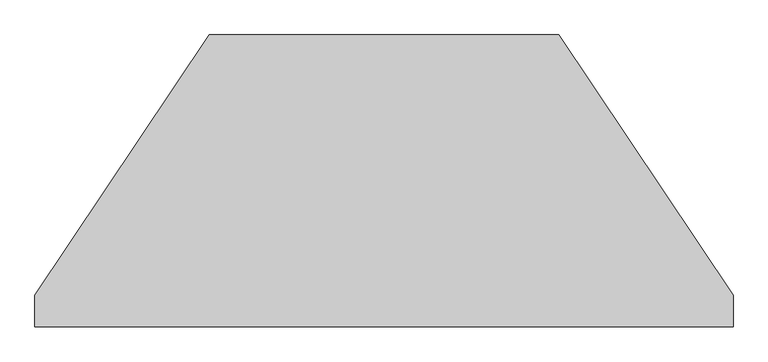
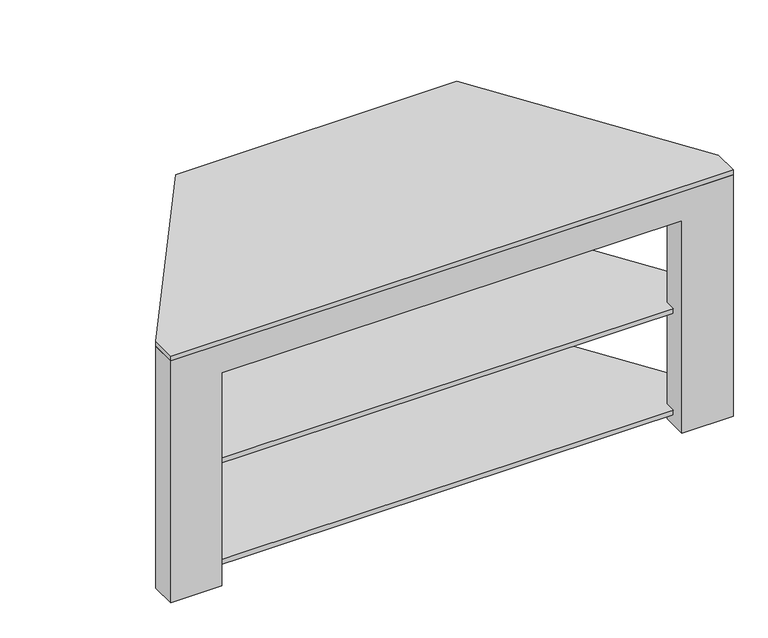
"""IFC4 building model written with IfcOpenShell, lengths in millimetres: furniture geometry, M_TV Stand : M_TV Stand."""

import ifcopenshell
import ifcopenshell.guid

model = None  # the IFC model being written
_history = None  # IfcOwnerHistory: only IFC2X3 demands one
_inside = {}  # id of a spatial element -> (the spatial element, [elements in it])
_under = {}  # id of a project, library or spatial element -> (it, [spatial elements below it])
_declared = {}  # id of a project -> (the project, [libraries it declares])
_typed = {}  # id of a type object -> (the type object, [elements of that type])
_made_of = {}  # id of a material, layer set ... -> (it, [elements and type objects made of it])


def new_model(schema):
    """Start an empty IFC model of exactly this schema.

    Asked for "IFC4X3", IfcOpenShell would pick the latest addendum, in which some entities
    have other attributes; the version numbers below select the first issue.
    IFC2X3 requires an IfcOwnerHistory on every rooted entity: one is made here for all.
    """
    global model, _history
    if schema == "IFC4X3":
        model = ifcopenshell.file(schema_version=(4, 3, 0, 0))
    else:
        model = ifcopenshell.file(schema=schema)
    _inside.clear()
    _under.clear()
    _declared.clear()
    _typed.clear()
    _made_of.clear()
    _history = None
    if model.schema == "IFC2X3":
        org = make("IfcOrganization", Name="unknown")
        user = make(
            "IfcPersonAndOrganization",
            ThePerson=make("IfcPerson", FamilyName="unknown"),
            TheOrganization=org,
        )
        app = make(
            "IfcApplication",
            ApplicationDeveloper=org,
            Version="unknown",
            ApplicationFullName="unknown",
            ApplicationIdentifier="unknown",
        )
        _history = make(
            "IfcOwnerHistory",
            OwningUser=user,
            OwningApplication=app,
            ChangeAction="ADDED",
            CreationDate=0,
        )
    return model


def make(cls, **values):
    """One entity of the class cls with the attributes given. An attribute that is None is left unset."""
    return model.create_entity(
        cls, **{name: value for name, value in values.items() if value is not None}
    )


def rooted(cls, **values):
    """An entity with a GlobalId (a new one), such as an element, a storey or a relation."""
    return make(cls, GlobalId=ifcopenshell.guid.new(), OwnerHistory=_history, **values)


def si_unit(unit_type, name, prefix=None):
    """IfcSIUnit, for example si_unit("LENGTHUNIT", "METRE", prefix="MILLI")."""
    return make("IfcSIUnit", UnitType=unit_type, Prefix=prefix, Name=name)


def assignment(units):
    """IfcUnitAssignment: the units of a project."""
    return None if units is None else make("IfcUnitAssignment", Units=units)


def point(xyz):
    """IfcCartesianPoint."""
    return None if xyz is None else make("IfcCartesianPoint", Coordinates=xyz)


def direction(xyz):
    """IfcDirection."""
    return None if xyz is None else make("IfcDirection", DirectionRatios=xyz)


def frame(location, z_axis=None, x_axis=None):
    """IfcAxis2Placement3D, a coordinate frame: its origin and axes. An axis left out is left unset."""
    return make(
        "IfcAxis2Placement3D",
        Location=point(location),
        Axis=direction(z_axis),
        RefDirection=direction(x_axis),
    )


def frame_2d(location, x_axis=None):
    """IfcAxis2Placement2D, a coordinate frame in the plane: its origin and x axis."""
    return make(
        "IfcAxis2Placement2D", Location=point(location), RefDirection=direction(x_axis)
    )


def origin():
    """The frame at (0, 0, 0) with its axes left unset."""
    return frame((0.0, 0.0, 0.0))


def place(relative_to, where):
    """IfcLocalPlacement: puts the frame where relative to a parent placement (None: the world)."""
    return make(
        "IfcLocalPlacement", PlacementRelTo=relative_to, RelativePlacement=where
    )


def context(
    kind, dimensions, precision=None, world=None, true_north=None, identifier=None
):
    """IfcGeometricRepresentationContext, for example the 3D "Model" context."""
    return make(
        "IfcGeometricRepresentationContext",
        ContextIdentifier=identifier,
        ContextType=kind,
        CoordinateSpaceDimension=dimensions,
        Precision=precision,
        WorldCoordinateSystem=world,
        TrueNorth=true_north,
    )


def project(units=None, contexts=None):
    """IfcProject with its units and contexts."""
    return rooted(
        "IfcProject",
        Name="project",
        RepresentationContexts=contexts,
        UnitsInContext=assignment(units),
    )


def spatial(cls, under=None, at=None, **own):
    """A site, building, storey or space (cls), placed at a placement, below another one or the project."""
    s = rooted(cls, ObjectPlacement=at, **own)
    if under is not None:
        _under.setdefault(under.id(), (under, []))[1].append(s)
    return s


def polyline(points):
    """IfcPolyline through the points."""
    return make("IfcPolyline", Points=[point(p) for p in points])


def circle_curve(where, radius):
    """IfcCircle in the frame where."""
    return make("IfcCircle", Position=where, Radius=radius)


def trimmed(basis, trim1, trim2, sense, master):
    """IfcTrimmedCurve: the piece of a basis curve between two trims."""
    return make(
        "IfcTrimmedCurve",
        BasisCurve=basis,
        Trim1=trim1,
        Trim2=trim2,
        SenseAgreement=sense,
        MasterRepresentation=master,
    )


def segment(curve, same_sense, transition):
    """IfcCompositeCurveSegment."""
    return make(
        "IfcCompositeCurveSegment",
        Transition=transition,
        SameSense=same_sense,
        ParentCurve=curve,
    )


def composite_curve(segments, self_intersect=None):
    """IfcCompositeCurve: segments joined end to end."""
    return make("IfcCompositeCurve", Segments=segments, SelfIntersect=self_intersect)


def outline(outer, holes=None, kind="AREA"):
    """IfcArbitraryClosedProfileDef: a profile drawn as a closed curve; with holes, ...WithVoids."""
    if holes is None:
        return make("IfcArbitraryClosedProfileDef", ProfileType=kind, OuterCurve=outer)
    return make(
        "IfcArbitraryProfileDefWithVoids",
        ProfileType=kind,
        OuterCurve=outer,
        InnerCurves=holes,
    )


def extrude(swept, where, along, depth):
    """IfcExtrudedAreaSolid: the profile swept, set in the frame where, extruded along a direction by depth."""
    return make(
        "IfcExtrudedAreaSolid",
        SweptArea=swept,
        Position=where,
        ExtrudedDirection=direction(along),
        Depth=depth,
    )


def faces_of(points, faces, orient=None, outer=None):
    """IfcFace entities. A face is a list of loops; a loop is a list of indices into points, from 0.

    orient and outer hold one flag for each loop. By default every Orientation is true, the
    first loop of a face is its IfcFaceOuterBound and the others are IfcFaceBound.
    """
    made = []
    for i, loops in enumerate(faces):
        bounds = []
        for j, loop in enumerate(loops):
            is_outer = j == 0 if outer is None else outer[i][j]
            bounds.append(
                make(
                    "IfcFaceOuterBound" if is_outer else "IfcFaceBound",
                    Bound=make("IfcPolyLoop", Polygon=[points[k] for k in loop]),
                    Orientation=True if orient is None else orient[i][j],
                )
            )
        made.append(make("IfcFace", Bounds=bounds))
    return made


def faceted_brep(points, faces, orient=None, outer=None, voids=None):
    """IfcFacetedBrep: a solid bounded by flat faces; with voids (closed shells), ...WithVoids."""
    shared = [point(p) for p in points]
    hull = make("IfcClosedShell", CfsFaces=faces_of(shared, faces, orient, outer))
    if voids is None:
        return make("IfcFacetedBrep", Outer=hull)
    return make(
        "IfcFacetedBrepWithVoids",
        Outer=hull,
        Voids=[
            make(cls, CfsFaces=faces_of(shared, fs, o, b)) for cls, fs, o, b in voids
        ],
    )


def shape(context_of_items, identifier, shape_type, items):
    """IfcShapeRepresentation: the items that make up one representation, for example the "Body"."""
    return make(
        "IfcShapeRepresentation",
        ContextOfItems=context_of_items,
        RepresentationIdentifier=identifier,
        RepresentationType=shape_type,
        Items=items,
    )


def source(mapping_origin, context_of_items, identifier, shape_type, items):
    """IfcRepresentationMap: a shape defined once, which mapped items show again and again."""
    return make(
        "IfcRepresentationMap",
        MappingOrigin=mapping_origin,
        MappedRepresentation=shape(context_of_items, identifier, shape_type, items),
    )


def transform(
    local_origin,
    x_axis=None,
    y_axis=None,
    z_axis=None,
    scale=None,
    scale2=None,
    scale3=None,
    uniform=True,
):
    """IfcCartesianTransformationOperator3D, or its non-uniform kind. x_axis, y_axis, z_axis: its Axis1, 2, 3."""
    if uniform:
        return make(
            "IfcCartesianTransformationOperator3D",
            Axis1=direction(x_axis),
            Axis2=direction(y_axis),
            LocalOrigin=point(local_origin),
            Scale=scale,
            Axis3=direction(z_axis),
        )
    return make(
        "IfcCartesianTransformationOperator3DnonUniform",
        Axis1=direction(x_axis),
        Axis2=direction(y_axis),
        LocalOrigin=point(local_origin),
        Scale=scale,
        Axis3=direction(z_axis),
        Scale2=scale2,
        Scale3=scale3,
    )


def mapped(mapping_source, mapping_target):
    """IfcMappedItem: shows the shape of a source again, moved by a transform."""
    return make(
        "IfcMappedItem", MappingSource=mapping_source, MappingTarget=mapping_target
    )


def made_of(thing, what):
    """Note that an element or type object is made of a material, layer set ...; save() writes the relation."""
    if what is not None:
        _made_of.setdefault(what.id(), (what, []))[1].append(thing)
    return thing


def element(
    cls,
    number,
    at=None,
    inside=None,
    cuts=None,
    type_object=None,
    material=None,
    context=None,
    identifier="Body",
    shape_type=None,
    held_by="IfcProductDefinitionShape",
    body=None,
    shapes=None,
    **own,
):
    """One element of the class cls, such as IfcWall. Its Tag is "e" and its number.

    at: its placement. inside: the storey or other place that contains it. cuts: it is an
    opening in that element (IfcRelVoidsElement). A single representation is given by context,
    identifier, shape_type and body (its items); several are given by shapes. held_by: the class
    of the entity that holds the representations. save() writes the other relations.
    """
    e = rooted(cls, Tag="e%d" % number, ObjectPlacement=at, **own)
    if body is not None:
        shapes = [shape(context, identifier, shape_type, body)]
    if shapes is not None:
        e.Representation = make(held_by, Representations=shapes)
    if inside is not None:
        _inside.setdefault(inside.id(), (inside, []))[1].append(e)
    if cuts is not None:
        rooted(
            "IfcRelVoidsElement", RelatingBuildingElement=cuts, RelatedOpeningElement=e
        )
    if type_object is not None:
        _typed.setdefault(type_object.id(), (type_object, []))[1].append(e)
    return made_of(e, material)


def aggregate(whole, parts):
    """IfcRelAggregates: a whole, such as a stair, and the parts it consists of."""
    return rooted("IfcRelAggregates", RelatingObject=whole, RelatedObjects=parts)


def save(model, path):
    """Write the relations noted so far, then the file.

    IfcRelAggregates (storeys below a building ...), IfcRelContainedInSpatialStructure (elements
    in a storey), IfcRelDefinesByType, IfcRelAssociatesMaterial and IfcRelDeclares: one each for
    every whole, place, type object, material and project.
    """
    for whole, parts in _under.values():
        aggregate(whole, parts)
    for where, things in _inside.values():
        rooted(
            "IfcRelContainedInSpatialStructure",
            RelatedElements=things,
            RelatingStructure=where,
        )
    for kind, things in _typed.values():
        rooted("IfcRelDefinesByType", RelatedObjects=things, RelatingType=kind)
    for what, things in _made_of.values():
        rooted("IfcRelAssociatesMaterial", RelatedObjects=things, RelatingMaterial=what)
    for by, libraries in _declared.values():
        rooted("IfcRelDeclares", RelatingContext=by, RelatedDefinitions=libraries)
    model.write(path)


def furniture_40ec15d9(model_context):
    return source(origin(), model_context, "Body", "SolidModel", [
        extrude(outline(polyline([(420.3099533, -30.0), (625.1880021, -335.4545455), (625.1880021, -430.0), (-374.8119979, -430.0), (-374.8119979, -335.4545455), (-169.9339492, -30.0), (420.3099533, -30.0)])), frame((0.0, 0.0, 20.0), z_axis=(0.0, 0.0, 1.0), x_axis=(1.0, 0.0, 0.0)), (0.0, 0.0, 1.0), 10.0),
        extrude(outline(polyline([(420.3099533, -30.0), (625.1880021, -335.4545455), (625.1880021, -430.0), (-374.8119979, -430.0), (-374.8119979, -335.4545455), (-169.9339492, -30.0), (420.3099533, -30.0)])), frame((0.0, 0.0, 230.0), z_axis=(0.0, 0.0, 1.0), x_axis=(1.0, 0.0, 0.0)), (0.0, 0.0, 1.0), 10.0),
        extrude(outline(polyline([(400.1880021, 0.0), (675.1880021, -410.0), (675.1880021, -460.0), (-424.8119979, -460.0), (-424.8119979, -410.0), (-149.8119979, 0.0), (400.1880021, 0.0)])), frame((0.0, 0.0, 500.0), z_axis=(0.0, 0.0, 1.0), x_axis=(1.0, 0.0, 0.0)), (0.0, 0.0, 1.0), 10.0),
        extrude(outline(polyline([(-50.0, 500.0), (0.0, 500.0), (0.0, 0.0), (-50.0, 0.0), (-50.0, 20.0), (-30.0, 20.0), (-30.0, 30.0), (-50.0, 30.0), (-50.0, 230.0), (-30.0, 230.0), (-30.0, 240.0), (-50.0, 240.0), (-50.0, 500.0)])), frame((-149.8119979, 0.0, 0.0), z_axis=(1.0, 0.0, 0.0), x_axis=(0.0, 1.0, 0.0)), (0.0, 0.0, 1.0), 100.0),
        extrude(outline(polyline([(-50.0, 500.0), (0.0, 500.0), (0.0, 0.0), (-50.0, 0.0), (-50.0, 20.0), (-30.0, 20.0), (-30.0, 30.0), (-50.0, 30.0), (-50.0, 230.0), (-30.0, 230.0), (-30.0, 240.0), (-50.0, 240.0), (-50.0, 500.0)])), frame((300.1880021, 0.0, 0.0), z_axis=(1.0, 0.0, 0.0), x_axis=(0.0, 1.0, 0.0)), (0.0, 0.0, 1.0), 100.0),
        faceted_brep([(-424.8119979, -460.0, 0.0), (-324.8119979, -460.0, 0.0), (-324.8119979, -460.0, 440.0), (575.1880021, -460.0, 440.0), (575.1880021, -460.0, 0.0), (675.1880021, -460.0, 0.0), (675.1880021, -460.0, 500.0), (-424.8119979, -460.0, 500.0), (-424.8119979, -410.0, 0.0), (-424.8119979, -410.0, 500.0), (675.1880021, -410.0, 500.0), (675.1880021, -410.0, 0.0), (575.1880021, -410.0, 0.0), (575.1880021, -410.0, 20.0), (625.1880021, -410.0, 20.0), (625.1880021, -410.0, 30.0), (575.1880021, -410.0, 30.0), (575.1880021, -410.0, 230.0), (625.1880021, -410.0, 230.0), (625.1880021, -410.0, 240.0), (575.1880021, -410.0, 240.0), (575.1880021, -410.0, 440.0), (-324.8119979, -410.0, 440.0), (-324.8119979, -410.0, 240.0), (-374.8119979, -410.0, 240.0), (-374.8119979, -410.0, 230.0), (-324.8119979, -410.0, 230.0), (-324.8119979, -410.0, 30.0), (-374.8119979, -410.0, 30.0), (-374.8119979, -410.0, 20.0), (-324.8119979, -410.0, 20.0), (-324.8119979, -410.0, 0.0), (-324.8119979, -430.0, 20.0), (-324.8119979, -430.0, 30.0), (-324.8119979, -430.0, 230.0), (-324.8119979, -430.0, 240.0), (575.1880021, -430.0, 240.0), (575.1880021, -430.0, 230.0), (575.1880021, -430.0, 30.0), (575.1880021, -430.0, 20.0), (625.1880021, -430.0, 240.0), (-374.8119979, -430.0, 240.0), (-374.8119979, -430.0, 230.0), (625.1880021, -430.0, 230.0), (625.1880021, -430.0, 30.0), (-374.8119979, -430.0, 30.0), (-374.8119979, -430.0, 20.0), (625.1880021, -430.0, 20.0)], [[[0, 1, 2, 3, 4, 5, 6, 7]], [[8, 9, 10, 11, 12, 13, 14, 15, 16, 17, 18, 19, 20, 21, 22, 23, 24, 25, 26, 27, 28, 29, 30, 31]], [[1, 0, 8, 31]], [[2, 1, 31, 30, 32, 33, 27, 26, 34, 35, 23, 22]], [[3, 2, 22, 21]], [[4, 3, 21, 20, 36, 37, 17, 16, 38, 39, 13, 12]], [[5, 4, 12, 11]], [[6, 5, 11, 10]], [[7, 6, 10, 9]], [[0, 7, 9, 8]], [[19, 40, 36, 20]], [[35, 41, 24, 23]], [[25, 42, 34, 26]], [[37, 43, 18, 17]], [[41, 42, 25, 24]], [[42, 41, 35, 34]], [[40, 43, 37, 36]], [[43, 40, 19, 18]], [[15, 44, 38, 16]], [[33, 45, 28, 27]], [[29, 46, 32, 30]], [[39, 47, 14, 13]], [[45, 46, 29, 28]], [[46, 45, 33, 32]], [[44, 47, 39, 38]], [[47, 44, 15, 14]]]),
        extrude(outline(polyline([(0.0, 300.1880021), (500.0, 300.1880021), (500.0, -49.8119979), (0.0, -49.8119979), (0.0, 300.1880021)]), holes=[composite_curve([segment(polyline([(245.0, 145.1700818), (245.0, 105.2059224)]), True, "CONTINUOUS"), segment(trimmed(circle_curve(frame_2d((257.5, 105.2059224)), 12.5), [point((245.0, 105.2059224))], [point((270.0, 105.2059224))], True, "CARTESIAN"), True, "CONTINUOUS"), segment(polyline([(270.0, 105.2059224), (270.0, 145.1700818)]), True, "CONTINUOUS"), segment(trimmed(circle_curve(frame_2d((257.5, 145.1700818)), 12.5), [point((270.0, 145.1700818))], [point((245.0, 145.1700818))], True, "CARTESIAN"), True, "CONTINUOUS")], self_intersect=False), composite_curve([segment(polyline([(35.0, 145.1880021), (35.0, 105.2059224)]), True, "CONTINUOUS"), segment(trimmed(circle_curve(frame_2d((47.5, 105.2059224)), 12.5), [point((35.0, 105.2059224))], [point((60.0, 105.2059224))], True, "CARTESIAN"), True, "CONTINUOUS"), segment(polyline([(60.0, 105.2059224), (60.0, 145.1880021)]), True, "CONTINUOUS"), segment(trimmed(circle_curve(frame_2d((47.5, 145.1880021)), 12.5), [point((60.0, 145.1880021))], [point((35.0, 145.1880021))], True, "CARTESIAN"), True, "CONTINUOUS")], self_intersect=False)]), frame((0.0, -30.0, 0.0), z_axis=(0.0, 1.0, 0.0), x_axis=(0.0, 0.0, 1.0)), (0.0, 0.0, 1.0), 10.0),
    ])


if __name__ == "__main__":
    model = new_model("IFC4")
    model_context = context("Model", 3, world=origin())
    ifc_project = project(units=[si_unit("LENGTHUNIT", "METRE", prefix="MILLI")], contexts=[model_context])
    site = spatial("IfcSite", under=ifc_project)
    building = spatial("IfcBuilding", under=site)
    placement = place(None, origin())
    furniture_shape = furniture_40ec15d9(model_context)
    element("IfcFurniture", 1, ObjectType="M_TV Stand : M_TV Stand", at=placement, inside=building, context=model_context, shape_type="MappedRepresentation", body=[
        mapped(furniture_shape, transform((0.0, 0.0, 0.0), x_axis=(1.0, 0.0, 0.0), y_axis=(0.0, 1.0, 0.0), z_axis=(0.0, 0.0, 1.0))),
    ])
    save(model, "model.ifc")
